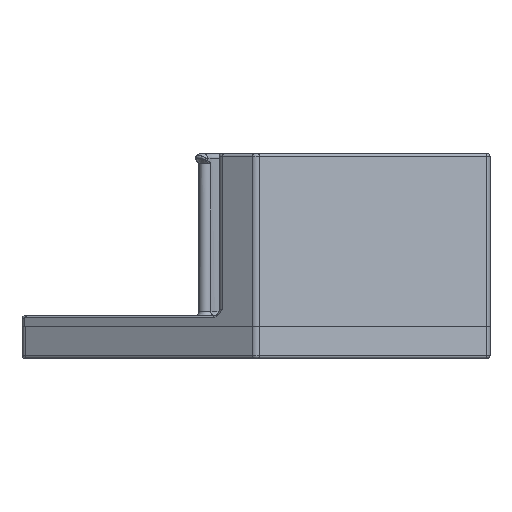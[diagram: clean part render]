
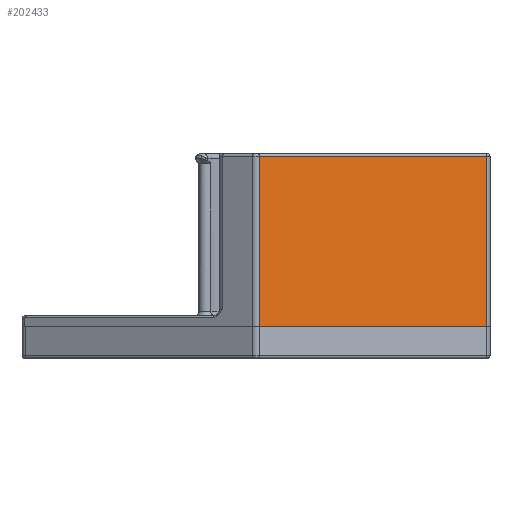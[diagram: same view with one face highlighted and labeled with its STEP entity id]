
A CAD part, left-side view. The second image highlights one B-rep face of the part: STEP entity #202433.
In plain terms, the highlighted planar face has unit normal (-0.866, -0.5, 0).
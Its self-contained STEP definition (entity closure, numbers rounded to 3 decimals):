
#2936=FACE_OUTER_BOUND('',#17602,.T.);
#17602=EDGE_LOOP('',(#138775,#138776,#138777,#138778));
#30925=LINE('',#286662,#59097);
#30937=LINE('',#287153,#59109);
#30950=LINE('',#287282,#59122);
#35101=LINE('',#296550,#63273);
#59097=VECTOR('',#229630,10.);
#59109=VECTOR('',#229704,10.);
#59122=VECTOR('',#229807,10.);
#63273=VECTOR('',#237064,10.);
#87274=VERTEX_POINT('',#286655);
#87276=VERTEX_POINT('',#286661);
#87302=VERTEX_POINT('',#287151);
#87303=VERTEX_POINT('',#287152);
#101560=EDGE_CURVE('',#87276,#87274,#30925,.T.);
#101600=EDGE_CURVE('',#87302,#87303,#30937,.T.);
#101644=EDGE_CURVE('',#87303,#87274,#30950,.T.);
#105939=EDGE_CURVE('',#87302,#87276,#35101,.T.);
#138775=ORIENTED_EDGE('',*,*,#101560,.T.);
#138776=ORIENTED_EDGE('',*,*,#101644,.F.);
#138777=ORIENTED_EDGE('',*,*,#101600,.F.);
#138778=ORIENTED_EDGE('',*,*,#105939,.T.);
#188264=PLANE('',#216829);
#202433=ADVANCED_FACE('',(#2936),#188264,.T.);
#216829=AXIS2_PLACEMENT_3D('',#296551,#237065,#237066);
#229630=DIRECTION('',(0.,0.,1.));
#229704=DIRECTION('',(0.,0.,1.));
#229807=DIRECTION('',(0.5,-0.866,0.));
#237064=DIRECTION('',(0.5,-0.866,0.));
#237065=DIRECTION('center_axis',(-0.866,-0.5,0.));
#237066=DIRECTION('ref_axis',(-0.5,0.866,0.));
#286655=CARTESIAN_POINT('',(-63.337,-106.753,74.));
#286661=CARTESIAN_POINT('',(-63.337,-106.753,-5.));
#286662=CARTESIAN_POINT('',(-63.337,-106.753,0.));
#287151=CARTESIAN_POINT('',(-124.104,-1.5,-5.));
#287152=CARTESIAN_POINT('',(-124.104,-1.5,74.));
#287153=CARTESIAN_POINT('',(-124.104,-1.5,0.));
#287282=CARTESIAN_POINT('',(-78.096,-81.19,74.));
#296550=CARTESIAN_POINT('',(-93.591,-54.352,-5.));
#296551=CARTESIAN_POINT('Origin',(-62.471,-108.253,0.));
